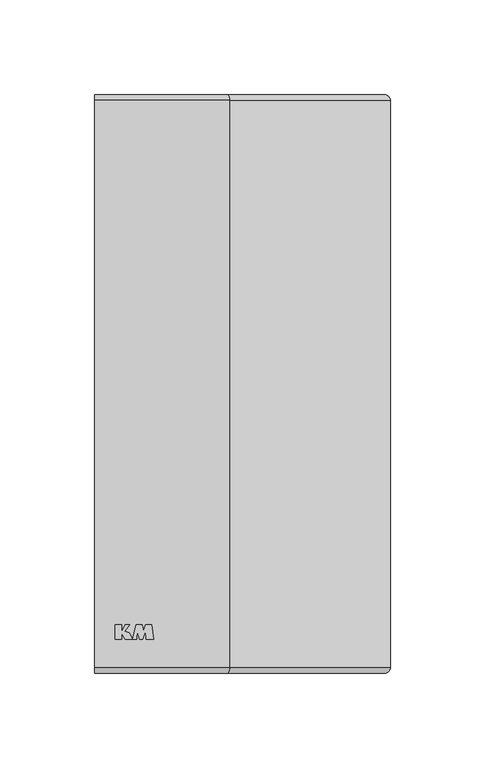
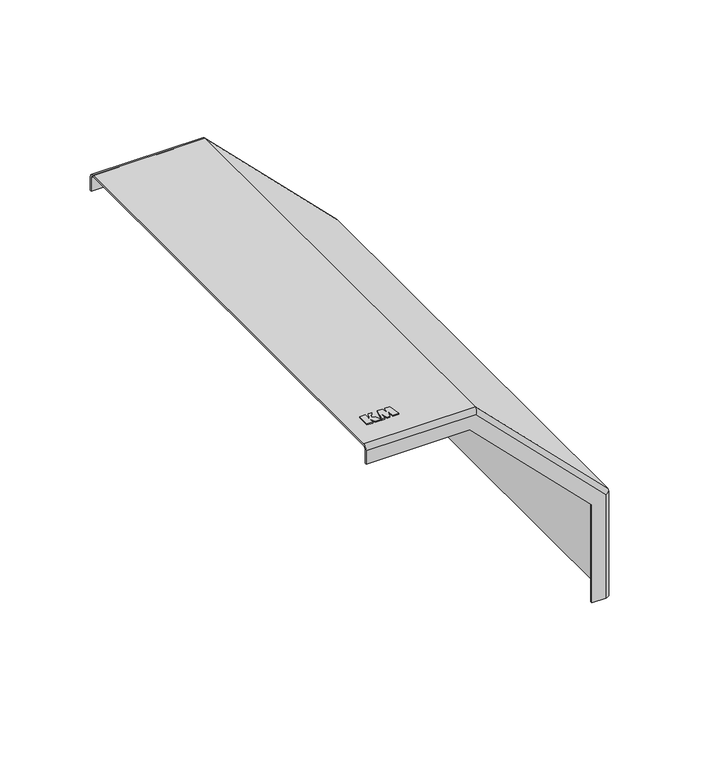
"""IFC4 building model written with IfcOpenShell, lengths in millimetres: cable carrier fitting geometry, КМ Профиль Крышка внешнего вертикального угла KVL90 : Крышка вертикального внешнего угла 90°."""

from ifc_helpers import new_model, si_unit, frame, origin, place, context, project, spatial, polyline, circle_curve, ellipse_curve, outline, extrude, source, transform, mapped, element, save
from ifc_brep_helpers import plane_surface, cylinder_surface, revolved_surface, advanced_brep


def cable_carrier_fitting_476a71f7(model_context):
    return source(origin(), model_context, "Body", "SolidModel", [
        extrude(outline(polyline([(10.7611219, -126.986157), (14.2683808, -126.986157), (14.2683808, -130.564509), (16.1710243, -126.986157), (18.296989, -126.986157), (15.8305045, -130.5086619), (18.0722556, -131.194034), (19.9395647, -134.737421), (16.0411533, -134.737421), (14.3369488, -131.5720802), (14.3369488, -134.737421), (10.7611219, -134.737421), (10.7611219, -126.986157)])), frame((0.0, 0.0, 3.0), z_axis=(0.0, 0.0, 1.0), x_axis=(1.0, 0.0, 0.0)), (0.0, 0.0, 1.0), 0.8),
        extrude(outline(polyline([(22.0037241, -134.737421), (20.1056605, -134.737421), (21.9259411, -126.9647569), (24.9566696, -126.9647569), (25.7231703, -130.0390232), (26.7444777, -126.9623682), (29.9384326, -126.9623682), (31.1299301, -134.7429915), (27.2274895, -134.7429915), (26.7499968, -130.0541919), (25.2699283, -134.7434681), (23.7954176, -134.7434681), (22.3873988, -130.0696135), (22.0037241, -134.737421)])), frame((0.0, 0.0, 3.0), z_axis=(0.0, 0.0, 1.0), x_axis=(1.0, 0.0, 0.0)), (0.0, 0.0, 1.0), 0.8),
        advanced_brep(
        [(0.0, -149.5, 3.0), (0.0, 149.5, 3.0), (0.0, 152.5, 0.0), (0.0, 152.5, -9.0), (0.0, 151.5, -9.0), (0.0, 151.5, 0.0), (0.0, 149.5, 2.0), (0.0, -149.5, 2.0), (0.0, -151.5, 0.0), (0.0, -151.5, -9.0), (0.0, -152.5, -9.0), (0.0, -152.5, 0.0), (71.2426407, -149.5, 3.0), (71.2426407, 149.5, 3.0), (70.0, 152.5, 0.0), (153.0, 152.5, -83.0), (153.0, 152.5, -153.0), (144.0, 152.5, -153.0), (144.0, 152.5, -86.7279221), (66.2720779, 152.5, -9.0), (66.2720779, 151.5, -9.0), (144.0, 151.5, -86.7279221), (144.0, 151.5, -153.0), (153.0, 151.5, -153.0), (153.0, 151.5, -83.0), (70.0, 151.5, 0.0), (70.8284271, 149.5, 2.0), (70.8284271, -149.5, 2.0), (70.0, -151.5, 0.0), (153.0, -151.5, -83.0), (153.0, -151.5, -153.0), (144.0, -151.5, -153.0), (144.0, -151.5, -86.7279221), (66.2720779, -151.5, -9.0), (66.2720779, -152.5, -9.0), (144.0, -152.5, -86.7279221), (144.0, -152.5, -153.0), (153.0, -152.5, -153.0), (153.0, -152.5, -83.0), (70.0, -152.5, 0.0), (156.0, -149.5, -153.0), (155.0, -149.5, -153.0), (155.0, 149.5, -153.0), (156.0, 149.5, -153.0), (156.0, -149.5, -81.7573593), (156.0, 149.5, -81.7573593), (155.0, 149.5, -82.1715729), (155.0, -149.5, -82.1715729)],
        [
            (0, 1),
            (1, 2, circle_curve(frame((0.0, 149.5, 0.0), z_axis=(-1.0, 0.0, 0.0), x_axis=(0.0, 0.0, 1.0)), 3.0)),
            (2, 3),
            (3, 4),
            (4, 5),
            (5, 6, circle_curve(frame((0.0, 149.5, 0.0), z_axis=(1.0, 0.0, 0.0), x_axis=(0.0, 0.0, 1.0)), 2.0)),
            (6, 7),
            (7, 8, circle_curve(frame((0.0, -149.5, 0.0), z_axis=(1.0, 0.0, 0.0), x_axis=(0.0, 0.0, 1.0)), 2.0)),
            (8, 9),
            (9, 10),
            (10, 11),
            (11, 0, circle_curve(frame((0.0, -149.5, 0.0), z_axis=(-1.0, 0.0, 0.0), x_axis=(0.0, 0.0, 1.0)), 3.0)),
            (0, 12),
            (12, 13),
            (13, 1),
            (13, 14, ellipse_curve(frame((70.0, 149.5, 0.0), z_axis=(-0.9238795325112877, 0.0, 0.3826834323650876), x_axis=(-0.38268343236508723, 0.0, -0.923879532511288)), 3.2471766, 3.0)),
            (14, 2),
            (14, 15),
            (15, 16),
            (16, 17),
            (17, 18),
            (18, 19),
            (19, 3),
            (19, 20),
            (20, 4),
            (20, 21),
            (21, 22),
            (22, 23),
            (23, 24),
            (24, 25),
            (25, 5),
            (25, 26, ellipse_curve(frame((70.0, 149.5, 0.0), z_axis=(0.9238795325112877, 0.0, -0.3826834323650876), x_axis=(0.38268343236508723, 0.0, 0.923879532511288)), 2.1647844, 2.0)),
            (26, 6),
            (26, 27),
            (27, 7),
            (27, 28, ellipse_curve(frame((70.0, -149.5, 0.0), z_axis=(0.9238795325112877, 0.0, -0.3826834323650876), x_axis=(0.38268343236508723, 0.0, 0.923879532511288)), 2.1647844, 2.0)),
            (28, 8),
            (28, 29),
            (29, 30),
            (30, 31),
            (31, 32),
            (32, 33),
            (33, 9),
            (33, 34),
            (34, 10),
            (34, 35),
            (35, 36),
            (36, 37),
            (37, 38),
            (38, 39),
            (39, 11),
            (39, 12, ellipse_curve(frame((70.0, -149.5, 0.0), z_axis=(-0.9238795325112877, 0.0, 0.3826834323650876), x_axis=(-0.38268343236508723, 0.0, -0.923879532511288)), 3.2471766, 3.0)),
            (40, 37, circle_curve(frame((153.0, -149.5, -153.0), z_axis=(0.0, 0.0, -1.0), x_axis=(1.0, 0.0, 0.0)), 3.0)),
            (36, 31),
            (30, 41, circle_curve(frame((153.0, -149.5, -153.0), z_axis=(0.0, 0.0, 1.0), x_axis=(1.0, 0.0, 0.0)), 2.0)),
            (41, 42),
            (42, 23, circle_curve(frame((153.0, 149.5, -153.0), z_axis=(0.0, 0.0, 1.0), x_axis=(1.0, 0.0, 0.0)), 2.0)),
            (22, 17),
            (16, 43, circle_curve(frame((153.0, 149.5, -153.0), z_axis=(0.0, 0.0, -1.0), x_axis=(1.0, 0.0, 0.0)), 3.0)),
            (43, 40),
            (12, 44),
            (44, 45),
            (45, 13),
            (45, 15, ellipse_curve(frame((153.0, 149.5, -83.0), z_axis=(-0.38268343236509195, 0.0, 0.9238795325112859), x_axis=(-0.9238795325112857, 0.0, -0.38268343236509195)), 3.2471766, 3.0)),
            (18, 21),
            (24, 46, ellipse_curve(frame((153.0, 149.5, -83.0), z_axis=(0.38268343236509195, 0.0, -0.9238795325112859), x_axis=(0.9238795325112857, 0.0, 0.38268343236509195)), 2.1647844, 2.0)),
            (46, 26),
            (46, 47),
            (47, 27),
            (47, 29, ellipse_curve(frame((153.0, -149.5, -83.0), z_axis=(0.38268343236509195, 0.0, -0.9238795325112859), x_axis=(0.9238795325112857, 0.0, 0.38268343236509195)), 2.1647844, 2.0)),
            (32, 35),
            (38, 44, ellipse_curve(frame((153.0, -149.5, -83.0), z_axis=(-0.38268343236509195, 0.0, 0.9238795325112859), x_axis=(-0.9238795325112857, 0.0, -0.38268343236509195)), 3.2471766, 3.0)),
            (44, 40),
            (43, 45),
            (42, 46),
            (41, 47),
        ],
        [
            plane_surface(frame((0.0, 0.0, 0.0), z_axis=(-1.0, 0.0, 0.0), x_axis=(0.0, -1.0, 0.0))),
            plane_surface(frame((0.0, -149.5, 3.0), z_axis=(0.0, 0.0, 1.0), x_axis=(1.0, 0.0, 0.0))),
            cylinder_surface(frame((0.0, 149.5, 0.0), z_axis=(-1.0, 0.0, 0.0), x_axis=(0.0, 0.0, 1.0)), 3.0),
            plane_surface(frame((0.0, 152.5, 0.0), z_axis=(0.0, 1.0, 0.0), x_axis=(1.0, 0.0, 0.0))),
            plane_surface(frame((0.0, 152.5, -9.0), z_axis=(0.0, 0.0, -1.0), x_axis=(1.0, 0.0, 0.0))),
            plane_surface(frame((0.0, 151.5, -9.0), z_axis=(0.0, -1.0, 0.0), x_axis=(1.0, 0.0, 0.0))),
            revolved_surface(polyline([(70.82842712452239, 149.5, 2.0), (0.0, 149.5, 2.0)]), (0.0, 149.5, 0.0), (1.0, 0.0, 0.0)),
            plane_surface(frame((0.0, 149.5, 2.0), z_axis=(0.0, 0.0, -1.0), x_axis=(1.0, 0.0, 0.0))),
            revolved_surface(polyline([(70.82842712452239, -149.5, 2.0), (0.0, -149.5, 2.0)]), (0.0, -149.5, 0.0), (1.0, 0.0, 0.0)),
            plane_surface(frame((0.0, -151.5, 0.0), z_axis=(0.0, 1.0, 0.0), x_axis=(1.0, 0.0, 0.0))),
            plane_surface(frame((0.0, -151.5, -9.0), z_axis=(0.0, 0.0, -1.0), x_axis=(1.0, 0.0, 0.0))),
            plane_surface(frame((0.0, -152.5, -9.0), z_axis=(0.0, -1.0, 0.0), x_axis=(1.0, 0.0, 0.0))),
            cylinder_surface(frame((0.0, -149.5, 0.0), z_axis=(-1.0, 0.0, 0.0), x_axis=(0.0, 0.0, 1.0)), 3.0),
            plane_surface(frame((153.0, 0.0, -153.0), z_axis=(0.0, 0.0, -1.0), x_axis=(0.0, -1.0, 0.0))),
            plane_surface(frame((71.2426407, -149.5, 3.0), z_axis=(0.7071067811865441, 0.0, 0.7071067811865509), x_axis=(0.7071067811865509, 0.0, -0.7071067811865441))),
            cylinder_surface(frame((70.0, 149.5, 0.0), z_axis=(-0.7071067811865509, 0.0, 0.7071067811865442), x_axis=(0.7071067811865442, 0.0, 0.7071067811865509)), 3.0),
            plane_surface(frame((66.2720779, 152.5, -9.0), z_axis=(-0.7071067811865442, 0.0, -0.7071067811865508), x_axis=(0.7071067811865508, 0.0, -0.7071067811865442))),
            revolved_surface(polyline([(155.0000000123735, 149.5, -82.17157288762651), (70.82842711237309, 149.5, 2.0000000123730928)]), (70.0, 149.5, 0.0), (0.7071067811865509, 0.0, -0.7071067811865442)),
            plane_surface(frame((70.8284271, 149.5, 2.0), z_axis=(-0.7071067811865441, 0.0, -0.7071067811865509), x_axis=(0.7071067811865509, 0.0, -0.7071067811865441))),
            revolved_surface(polyline([(155.0000000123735, -149.5, -82.17157288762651), (70.82842711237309, -149.5, 2.0000000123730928)]), (70.0, -149.5, 0.0), (0.7071067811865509, 0.0, -0.7071067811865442)),
            plane_surface(frame((66.2720779, -151.5, -9.0), z_axis=(-0.7071067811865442, 0.0, -0.7071067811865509), x_axis=(0.7071067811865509, 0.0, -0.7071067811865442))),
            cylinder_surface(frame((70.0, -149.5, 0.0), z_axis=(-0.7071067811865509, 0.0, 0.7071067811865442), x_axis=(0.7071067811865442, 0.0, 0.7071067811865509)), 3.0),
            plane_surface(frame((156.0, -149.5, -81.7573593), z_axis=(1.0, 0.0, 0.0), x_axis=(0.0, 0.0, -1.0))),
            cylinder_surface(frame((153.0, 149.5, -83.0), z_axis=(0.0, 0.0, 1.0), x_axis=(1.0, 0.0, 0.0)), 3.0),
            plane_surface(frame((144.0, 152.5, -86.7279221), z_axis=(-1.0, 0.0, 0.0), x_axis=(0.0, 0.0, -1.0))),
            revolved_surface(polyline([(155.0, 149.5, -153.0), (155.0, 149.5, -82.1715728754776)]), (153.0, 149.5, -83.0), (0.0, 0.0, -1.0)),
            plane_surface(frame((155.0, 149.5, -82.1715729), z_axis=(-1.0, 0.0, 0.0), x_axis=(0.0, 0.0, -1.0))),
            revolved_surface(polyline([(155.0, -149.5, -153.0), (155.0, -149.5, -82.1715728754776)]), (153.0, -149.5, -83.0), (0.0, 0.0, -1.0)),
            plane_surface(frame((144.0, -151.5, -86.7279221), z_axis=(-1.0, 0.0, 0.0), x_axis=(0.0, 0.0, -1.0))),
            cylinder_surface(frame((153.0, -149.5, -83.0), z_axis=(0.0, 0.0, 1.0), x_axis=(1.0, 0.0, 0.0)), 3.0),
        ],
        [
            (0, [[1, 2, 3, 4, 5, 6, 7, 8, 9, 10, 11, 12]]),
            (1, [[-1, 13, 14, 15]]),
            (2, [[-2, -15, 16, 17]]),
            (3, [[-3, -17, 18, 19, 20, 21, 22, 23]]),
            (4, [[-4, -23, 24, 25]]),
            (5, [[-5, -25, 26, 27, 28, 29, 30, 31]]),
            (6, [[-6, -31, 32, 33]]),
            (7, [[-7, -33, 34, 35]]),
            (8, [[-8, -35, 36, 37]]),
            (9, [[-9, -37, 38, 39, 40, 41, 42, 43]]),
            (10, [[-10, -43, 44, 45]]),
            (11, [[-11, -45, 46, 47, 48, 49, 50, 51]]),
            (12, [[-12, -51, 52, -13]]),
            (13, [[53, -48, 54, -40, 55, 56, 57, -28, 58, -20, 59, 60]]),
            (14, [[-14, 61, 62, 63]]),
            (15, [[-16, -63, 64, -18]]),
            (16, [[-24, -22, 65, -26]]),
            (17, [[-32, -30, 66, 67]]),
            (18, [[-34, -67, 68, 69]]),
            (19, [[-36, -69, 70, -38]]),
            (20, [[-44, -42, 71, -46]]),
            (21, [[-52, -50, 72, -61]]),
            (22, [[-62, 73, -60, 74]]),
            (23, [[-64, -74, -59, -19]]),
            (24, [[-65, -21, -58, -27]]),
            (25, [[-66, -29, -57, 75]]),
            (26, [[-68, -75, -56, 76]]),
            (27, [[-70, -76, -55, -39]]),
            (28, [[-71, -41, -54, -47]]),
            (29, [[-72, -49, -53, -73]]),
        ],
    ),
    ])


if __name__ == "__main__":
    model = new_model("IFC4")
    model_context = context("Model", 3, world=origin())
    ifc_project = project(units=[si_unit("LENGTHUNIT", "METRE", prefix="MILLI")], contexts=[model_context])
    site = spatial("IfcSite", under=ifc_project)
    building = spatial("IfcBuilding", under=site)
    placement = place(None, origin())
    cable_carrier_fitting_shape = cable_carrier_fitting_476a71f7(model_context)
    element("IfcCableCarrierFitting", 1, ObjectType="КМ Профиль Крышка внешнего вертикального угла KVL90 : Крышка вертикального внешнего угла 90°", at=placement, inside=building, context=model_context, shape_type="MappedRepresentation", body=[
        mapped(cable_carrier_fitting_shape, transform((0.0, 0.0, 0.0), x_axis=(1.0, 0.0, 0.0), y_axis=(0.0, 1.0, 0.0), z_axis=(0.0, 0.0, 1.0))),
    ])
    save(model, "model.ifc")
